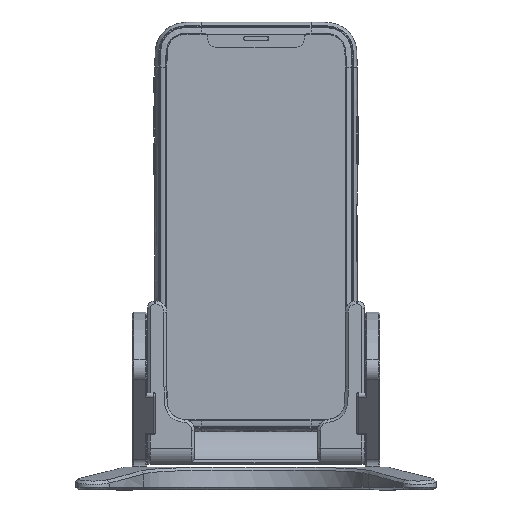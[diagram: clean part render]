
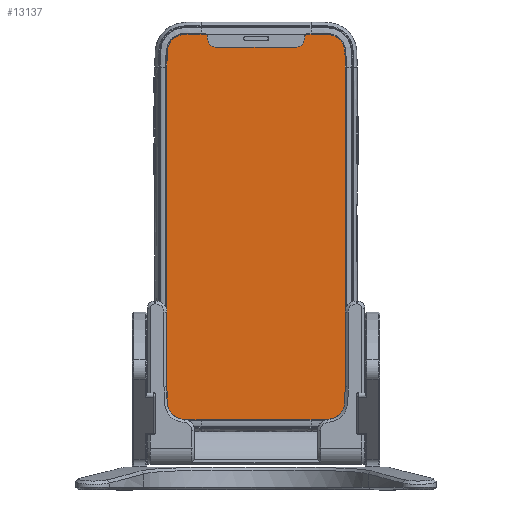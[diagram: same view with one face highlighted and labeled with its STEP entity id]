
A CAD part, front view. The second image highlights one B-rep face of the part: STEP entity #13137.
In plain terms, the highlighted planar face has unit normal (0, -1, 0) as drawn and (0, 1, 0) by its records, which use the part's own axes.
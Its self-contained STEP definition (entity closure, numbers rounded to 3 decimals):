
#431=B_SPLINE_CURVE_WITH_KNOTS('',3,(#29251,#29252,#29253,#29254,#29255,
#29256,#29257,#29258,#29259,#29260,#29261,#29262,#29263,#29264),
 .UNSPECIFIED.,.F.,.F.,(4,1,1,1,1,1,1,1,1,1,1,4),(0.,0.071,
0.143,0.214,0.286,0.429,
0.571,0.643,0.714,0.786,
0.857,1.),.UNSPECIFIED.);
#433=B_SPLINE_CURVE_WITH_KNOTS('',3,(#29466,#29467,#29468,#29469,#29470,
#29471,#29472,#29473,#29474,#29475,#29476,#29477,#29478,#29479,#29480,#29481),
 .UNSPECIFIED.,.F.,.F.,(4,1,1,1,1,1,1,1,1,1,1,1,1,4),(0.,0.143,
0.286,0.304,0.357,0.429,
0.5,0.554,0.571,0.714,0.857,
0.875,0.929,1.),.UNSPECIFIED.);
#435=B_SPLINE_CURVE_WITH_KNOTS('',3,(#29565,#29566,#29567,#29568,#29569,
#29570,#29571,#29572,#29573,#29574,#29575,#29576,#29577,#29578),
 .UNSPECIFIED.,.F.,.F.,(4,1,1,1,1,1,1,1,1,1,1,4),(0.,0.143,
0.286,0.357,0.429,0.5,0.571,
0.643,0.714,0.786,0.857,
1.),.UNSPECIFIED.);
#437=B_SPLINE_CURVE_WITH_KNOTS('',3,(#29762,#29763,#29764,#29765,#29766,
#29767,#29768,#29769,#29770,#29771,#29772,#29773,#29774),.UNSPECIFIED.,
 .F.,.F.,(4,1,1,1,1,1,1,1,1,1,4),(0.,0.143,0.286,
0.304,0.357,0.429,0.571,
0.714,0.857,0.964,1.),.UNSPECIFIED.);
#1147=CIRCLE('',#14216,1.3);
#1148=CIRCLE('',#14217,3.22);
#1149=CIRCLE('',#14218,3.22);
#1150=CIRCLE('',#14219,1.3);
#1953=FACE_OUTER_BOUND('',#2823,.T.);
#2823=EDGE_LOOP('',(#10274,#10275,#10276,#10277,#10278,#10279,#10280,#10281,
#10282,#10283,#10284,#10285,#10286,#10287,#10288,#10289));
#3796=LINE('',#29360,#4789);
#3798=LINE('',#29674,#4791);
#3800=LINE('',#29866,#4793);
#3810=LINE('',#30108,#4803);
#3812=LINE('',#30202,#4805);
#3813=LINE('',#30229,#4806);
#3814=LINE('',#30233,#4807);
#3815=LINE('',#30237,#4808);
#4789=VECTOR('',#16354,10.);
#4791=VECTOR('',#16364,10.);
#4793=VECTOR('',#16368,10.);
#4803=VECTOR('',#16388,10.);
#4805=VECTOR('',#16390,10.);
#4806=VECTOR('',#16395,10.);
#4807=VECTOR('',#16398,10.);
#4808=VECTOR('',#16401,10.);
#5904=VERTEX_POINT('',#29248);
#5905=VERTEX_POINT('',#29250);
#5907=VERTEX_POINT('',#29358);
#5909=VERTEX_POINT('',#29464);
#5912=VERTEX_POINT('',#29562);
#5913=VERTEX_POINT('',#29564);
#5915=VERTEX_POINT('',#29672);
#5917=VERTEX_POINT('',#29760);
#5935=VERTEX_POINT('',#30088);
#5937=VERTEX_POINT('',#30201);
#5938=VERTEX_POINT('',#30226);
#5939=VERTEX_POINT('',#30228);
#5940=VERTEX_POINT('',#30230);
#5941=VERTEX_POINT('',#30232);
#5942=VERTEX_POINT('',#30234);
#5943=VERTEX_POINT('',#30236);
#7439=EDGE_CURVE('',#5904,#5905,#431,.T.);
#7443=EDGE_CURVE('',#5907,#5904,#3796,.T.);
#7446=EDGE_CURVE('',#5909,#5907,#433,.T.);
#7449=EDGE_CURVE('',#5912,#5913,#435,.T.);
#7453=EDGE_CURVE('',#5915,#5912,#3798,.T.);
#7456=EDGE_CURVE('',#5917,#5915,#437,.T.);
#7458=EDGE_CURVE('',#5905,#5917,#3800,.T.);
#7477=EDGE_CURVE('',#5935,#5909,#3810,.T.);
#7479=EDGE_CURVE('',#5913,#5937,#3812,.T.);
#7481=EDGE_CURVE('',#5938,#5935,#1147,.T.);
#7482=EDGE_CURVE('',#5939,#5938,#3813,.T.);
#7483=EDGE_CURVE('',#5940,#5939,#1148,.T.);
#7484=EDGE_CURVE('',#5941,#5940,#3814,.T.);
#7485=EDGE_CURVE('',#5942,#5941,#1149,.T.);
#7486=EDGE_CURVE('',#5943,#5942,#3815,.T.);
#7487=EDGE_CURVE('',#5937,#5943,#1150,.T.);
#10274=ORIENTED_EDGE('',*,*,#7481,.F.);
#10275=ORIENTED_EDGE('',*,*,#7482,.F.);
#10276=ORIENTED_EDGE('',*,*,#7483,.F.);
#10277=ORIENTED_EDGE('',*,*,#7484,.F.);
#10278=ORIENTED_EDGE('',*,*,#7485,.F.);
#10279=ORIENTED_EDGE('',*,*,#7486,.F.);
#10280=ORIENTED_EDGE('',*,*,#7487,.F.);
#10281=ORIENTED_EDGE('',*,*,#7479,.F.);
#10282=ORIENTED_EDGE('',*,*,#7449,.F.);
#10283=ORIENTED_EDGE('',*,*,#7453,.F.);
#10284=ORIENTED_EDGE('',*,*,#7456,.F.);
#10285=ORIENTED_EDGE('',*,*,#7458,.F.);
#10286=ORIENTED_EDGE('',*,*,#7439,.F.);
#10287=ORIENTED_EDGE('',*,*,#7443,.F.);
#10288=ORIENTED_EDGE('',*,*,#7446,.F.);
#10289=ORIENTED_EDGE('',*,*,#7477,.F.);
#12567=PLANE('',#14215);
#13137=ADVANCED_FACE('',(#1953),#12567,.T.);
#14215=AXIS2_PLACEMENT_3D('',#30225,#16391,#16392);
#14216=AXIS2_PLACEMENT_3D('',#30227,#16393,#16394);
#14217=AXIS2_PLACEMENT_3D('',#30231,#16396,#16397);
#14218=AXIS2_PLACEMENT_3D('',#30235,#16399,#16400);
#14219=AXIS2_PLACEMENT_3D('',#30238,#16402,#16403);
#16354=DIRECTION('',(0.,0.,1.));
#16364=DIRECTION('',(0.,0.,-1.));
#16368=DIRECTION('',(-1.,0.,0.));
#16388=DIRECTION('',(1.,0.,0.));
#16390=DIRECTION('',(1.,0.,0.));
#16391=DIRECTION('center_axis',(0.,1.,0.));
#16392=DIRECTION('ref_axis',(1.,0.,0.));
#16393=DIRECTION('center_axis',(0.,-1.,0.));
#16394=DIRECTION('ref_axis',(0.,0.,-1.));
#16395=DIRECTION('',(0.,0.,-1.));
#16396=DIRECTION('center_axis',(0.,1.,0.));
#16397=DIRECTION('ref_axis',(0.,0.,1.));
#16398=DIRECTION('',(1.,0.,0.));
#16399=DIRECTION('center_axis',(0.,1.,0.));
#16400=DIRECTION('ref_axis',(-1.,0.,0.));
#16401=DIRECTION('',(0.,0.,1.));
#16402=DIRECTION('center_axis',(0.,-1.,0.));
#16403=DIRECTION('ref_axis',(1.,0.,0.));
#29248=CARTESIAN_POINT('',(31.23,3.85,56.005));
#29250=CARTESIAN_POINT('',(19.26,3.85,67.545));
#29251=CARTESIAN_POINT('Ctrl Pts',(31.23,3.85,56.005));
#29252=CARTESIAN_POINT('Ctrl Pts',(31.23,3.85,56.796));
#29253=CARTESIAN_POINT('Ctrl Pts',(31.235,3.85,58.265));
#29254=CARTESIAN_POINT('Ctrl Pts',(31.217,3.85,60.057));
#29255=CARTESIAN_POINT('Ctrl Pts',(31.118,3.85,61.52));
#29256=CARTESIAN_POINT('Ctrl Pts',(30.811,3.85,63.243));
#29257=CARTESIAN_POINT('Ctrl Pts',(30.133,3.85,64.869));
#29258=CARTESIAN_POINT('Ctrl Pts',(28.949,3.85,66.072));
#29259=CARTESIAN_POINT('Ctrl Pts',(27.66,3.85,66.817));
#29260=CARTESIAN_POINT('Ctrl Pts',(26.68,3.85,67.171));
#29261=CARTESIAN_POINT('Ctrl Pts',(25.516,3.85,67.403));
#29262=CARTESIAN_POINT('Ctrl Pts',(23.384,3.85,67.559));
#29263=CARTESIAN_POINT('Ctrl Pts',(21.029,3.85,67.545));
#29264=CARTESIAN_POINT('Ctrl Pts',(19.26,3.85,67.545));
#29358=CARTESIAN_POINT('',(31.23,3.85,-56.005));
#29360=CARTESIAN_POINT('',(31.23,3.85,-56.005));
#29464=CARTESIAN_POINT('',(19.26,3.85,-67.545));
#29466=CARTESIAN_POINT('Ctrl Pts',(19.26,3.85,-67.545));
#29467=CARTESIAN_POINT('Ctrl Pts',(21.029,3.85,-67.545));
#29468=CARTESIAN_POINT('Ctrl Pts',(24.182,3.85,-67.568));
#29469=CARTESIAN_POINT('Ctrl Pts',(26.051,3.85,-67.336));
#29470=CARTESIAN_POINT('Ctrl Pts',(27.087,3.85,-67.026));
#29471=CARTESIAN_POINT('Ctrl Pts',(27.745,3.85,-66.772));
#29472=CARTESIAN_POINT('Ctrl Pts',(28.615,3.85,-66.272));
#29473=CARTESIAN_POINT('Ctrl Pts',(29.366,3.85,-65.64));
#29474=CARTESIAN_POINT('Ctrl Pts',(29.796,3.85,-65.13));
#29475=CARTESIAN_POINT('Ctrl Pts',(30.364,3.85,-64.313));
#29476=CARTESIAN_POINT('Ctrl Pts',(30.96,3.85,-62.89));
#29477=CARTESIAN_POINT('Ctrl Pts',(31.18,3.85,-60.966));
#29478=CARTESIAN_POINT('Ctrl Pts',(31.226,3.85,-59.309));
#29479=CARTESIAN_POINT('Ctrl Pts',(31.236,3.85,-58.076));
#29480=CARTESIAN_POINT('Ctrl Pts',(31.23,3.85,-56.796));
#29481=CARTESIAN_POINT('Ctrl Pts',(31.23,3.85,-56.005));
#29562=CARTESIAN_POINT('',(-31.23,3.85,-56.005));
#29564=CARTESIAN_POINT('',(-19.26,3.85,-67.545));
#29565=CARTESIAN_POINT('Ctrl Pts',(-31.23,3.85,-56.005));
#29566=CARTESIAN_POINT('Ctrl Pts',(-31.23,3.85,-57.444));
#29567=CARTESIAN_POINT('Ctrl Pts',(-31.263,3.85,-60.222));
#29568=CARTESIAN_POINT('Ctrl Pts',(-31.016,3.85,-62.463));
#29569=CARTESIAN_POINT('Ctrl Pts',(-30.547,3.85,-63.866));
#29570=CARTESIAN_POINT('Ctrl Pts',(-30.048,3.85,-64.813));
#29571=CARTESIAN_POINT('Ctrl Pts',(-29.418,3.85,-65.599));
#29572=CARTESIAN_POINT('Ctrl Pts',(-28.622,3.85,-66.273));
#29573=CARTESIAN_POINT('Ctrl Pts',(-27.675,3.85,-66.811));
#29574=CARTESIAN_POINT('Ctrl Pts',(-26.675,3.85,-67.174));
#29575=CARTESIAN_POINT('Ctrl Pts',(-25.508,3.85,-67.406));
#29576=CARTESIAN_POINT('Ctrl Pts',(-23.384,3.85,-67.564));
#29577=CARTESIAN_POINT('Ctrl Pts',(-21.03,3.85,-67.545));
#29578=CARTESIAN_POINT('Ctrl Pts',(-19.26,3.85,-67.545));
#29672=CARTESIAN_POINT('',(-31.23,3.85,56.005));
#29674=CARTESIAN_POINT('',(-31.23,3.85,56.005));
#29760=CARTESIAN_POINT('',(-19.26,3.85,67.545));
#29762=CARTESIAN_POINT('Ctrl Pts',(-19.26,3.85,67.545));
#29763=CARTESIAN_POINT('Ctrl Pts',(-21.03,3.85,67.545));
#29764=CARTESIAN_POINT('Ctrl Pts',(-24.183,3.85,67.57));
#29765=CARTESIAN_POINT('Ctrl Pts',(-26.043,3.85,67.335));
#29766=CARTESIAN_POINT('Ctrl Pts',(-27.092,3.85,67.022));
#29767=CARTESIAN_POINT('Ctrl Pts',(-27.755,3.85,66.766));
#29768=CARTESIAN_POINT('Ctrl Pts',(-28.94,3.85,66.09));
#29769=CARTESIAN_POINT('Ctrl Pts',(-30.127,3.85,64.862));
#29770=CARTESIAN_POINT('Ctrl Pts',(-30.965,3.85,62.889));
#29771=CARTESIAN_POINT('Ctrl Pts',(-31.24,3.85,60.455));
#29772=CARTESIAN_POINT('Ctrl Pts',(-31.231,3.85,57.803));
#29773=CARTESIAN_POINT('Ctrl Pts',(-31.23,3.85,56.368));
#29774=CARTESIAN_POINT('Ctrl Pts',(-31.23,3.85,56.005));
#29866=CARTESIAN_POINT('',(19.26,3.85,67.545));
#30088=CARTESIAN_POINT('',(17.434,3.85,-67.545));
#30108=CARTESIAN_POINT('',(-19.26,3.85,-67.545));
#30201=CARTESIAN_POINT('',(-17.434,3.85,-67.545));
#30202=CARTESIAN_POINT('',(-19.26,3.85,-67.545));
#30225=CARTESIAN_POINT('Origin',(0.,3.85,-0.001));
#30226=CARTESIAN_POINT('',(17.,3.85,-66.575));
#30227=CARTESIAN_POINT('Origin',(18.3,3.85,-66.575));
#30228=CARTESIAN_POINT('',(17.,3.85,-66.105));
#30229=CARTESIAN_POINT('',(17.,3.85,-33.288));
#30230=CARTESIAN_POINT('',(13.78,3.85,-62.885));
#30231=CARTESIAN_POINT('Origin',(13.78,3.85,-66.105));
#30232=CARTESIAN_POINT('',(-13.78,3.85,-62.885));
#30233=CARTESIAN_POINT('',(6.89,3.85,-62.885));
#30234=CARTESIAN_POINT('',(-17.,3.85,-66.105));
#30235=CARTESIAN_POINT('Origin',(-13.78,3.85,-66.105));
#30236=CARTESIAN_POINT('',(-17.,3.85,-66.575));
#30237=CARTESIAN_POINT('',(-17.,3.85,-33.053));
#30238=CARTESIAN_POINT('Origin',(-18.3,3.85,-66.575));
